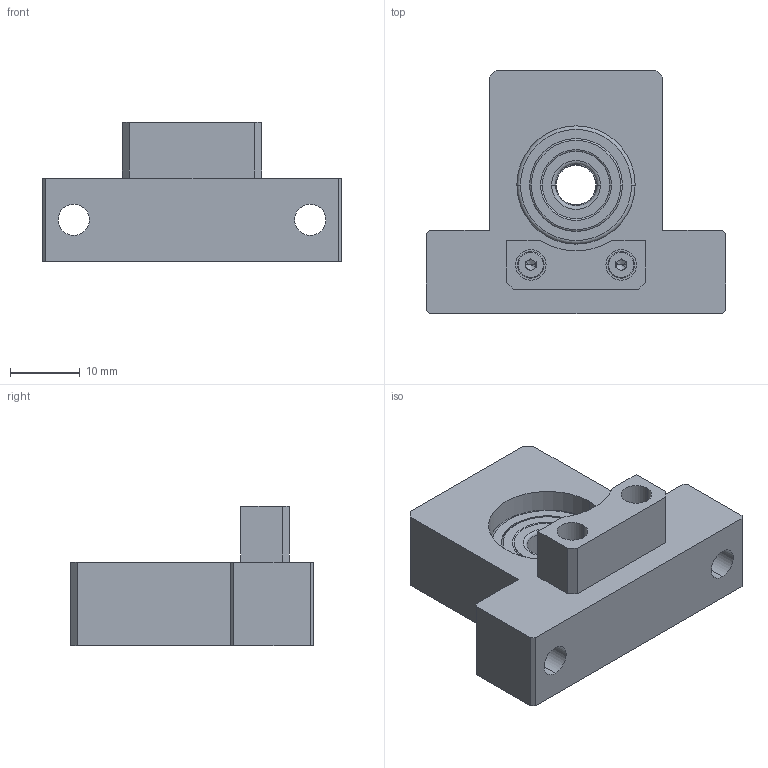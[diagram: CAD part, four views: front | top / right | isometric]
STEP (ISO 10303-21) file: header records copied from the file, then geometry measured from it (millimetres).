
FILE_DESCRIPTION (( 'STEP AP214' ), '1' );
FILE_NAME ('S-SBU-6.28.STEP', '2026-03-26T06:26:17', ( '决扁浅何厘' ), ( '' ), 'SwSTEP 2.0', 'SolidWorks 2024', '' );
FILE_SCHEMA (( 'AUTOMOTIVE_DESIGN' ));
Length unit declared in the file: millimetre
Products named in the file (6): socket head cap screw_ks_KS 1003 - M2 x 5 x 5-N; 6 DAMPER; deep groove ball bearing (series 60)_ks_KS B 2023 S60 - 606-S-ZZ; S-SBU-6.28; S-SBU-6.28 HOUSING; STWN6
Assembly tree (6 placements, depth 2):
  S-SBU-6.28
    S-SBU-6.28 HOUSING
    6 DAMPER
    socket head cap screw_ks_KS 1003 - M2 x 5 x 5-N  x2
    deep groove ball bearing (series 60)_ks_KS B 2023 S60 - 606-S-ZZ
    STWN6
Bounding box: 43 x 35 x 20 mm (x, y, z)
Volume: 11945.9 mm3; surface area: 6942.3 mm2
Topology: 6 solids, 8 shells, 187 faces, 431 edges, 262 vertices
Faces by surface type: plane 79, cylinder 64, torus 32, cone 12
Entity records: 4652 total; most frequent: DIRECTION 859, CARTESIAN_POINT 749, ORIENTED_EDGE 718, EDGE_CURVE 359, AXIS2_PLACEMENT_3D 335, VERTEX_POINT 225, VECTOR 189, LINE 189
